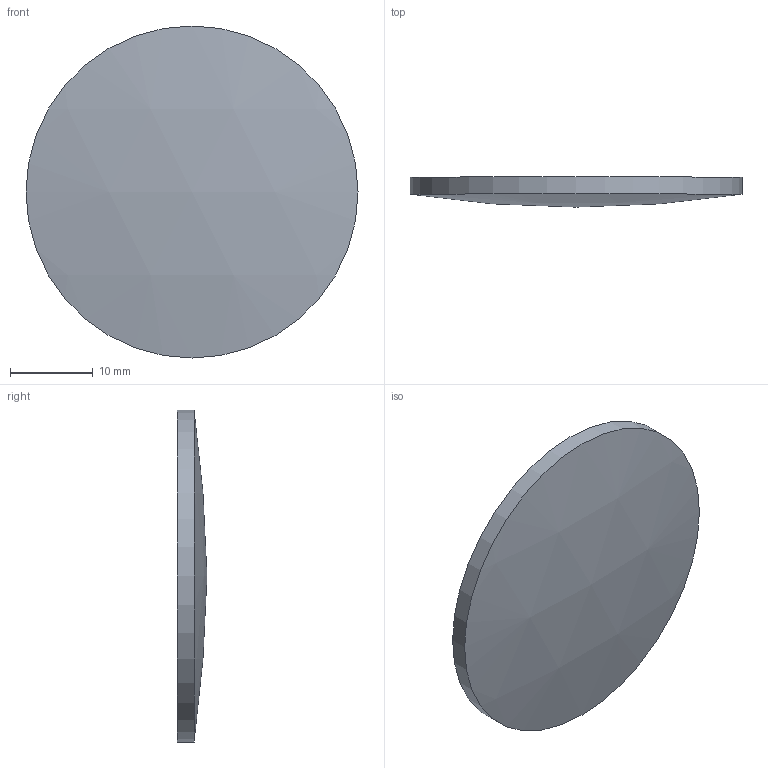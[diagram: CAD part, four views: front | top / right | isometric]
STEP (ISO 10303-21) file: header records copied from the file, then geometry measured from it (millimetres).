
FILE_DESCRIPTION((''),'2;1');
FILE_NAME('Y:\メカ関係\2能登便\素子ﾓﾃﾞﾙ（角屋さま野中さま⇒川島）\5月分\1_球面平凸レンズ-BK7\SLB-P\φ40\SLB-40-250P\SLB-40-250P.stp','2009-05-20T13:31:20',('usernoto011'),(''),'Autodesk Inventor 2008','Autodesk Inventor 2008','');
FILE_SCHEMA(('AUTOMOTIVE_DESIGN { 1 0 10303 214 1 1 1 1 }'));
Length unit declared in the file: millimetre
Products named in the file (1): SLB-40-250P
Bounding box: 40 x 3.6 x 40 mm (x, y, z)
Volume: 3551.5 mm3; surface area: 2778.4 mm2
Topology: 1 solids, 1 shells, 3 faces, 3 edges, 2 vertices
Faces by surface type: sphere 1, cylinder 1, plane 1
Full cylindrical faces by diameter (mm): 40 x1
Entity records: 80 total; most frequent: DIRECTION 12, CARTESIAN_POINT 8, AXIS2_PLACEMENT_3D 6, ORIENTED_EDGE 4, EDGE_LOOP 4, FACE_OUTER_BOUND 3, ADVANCED_FACE 3, DIMENSIONAL_EXPONENTS 2
